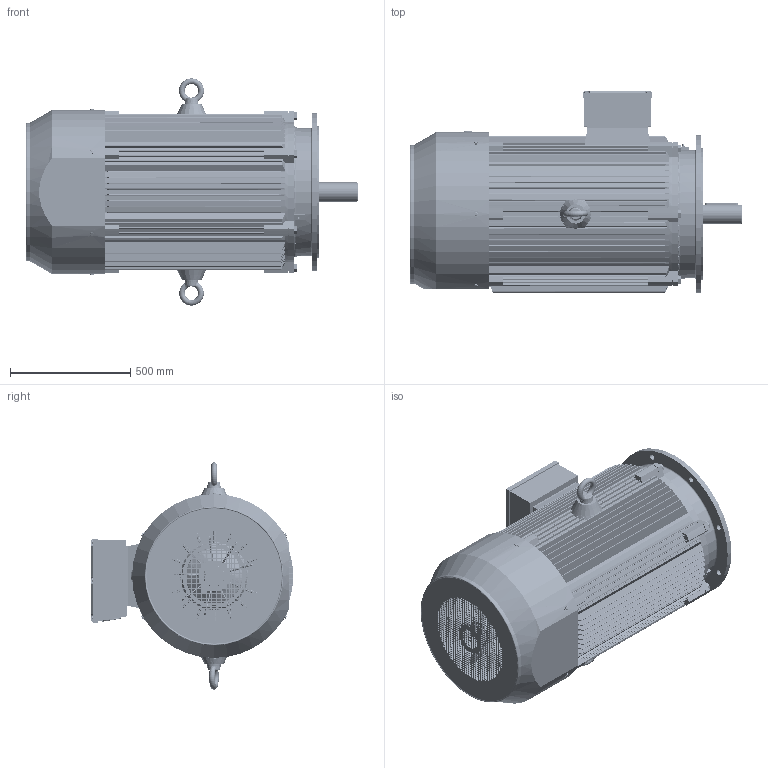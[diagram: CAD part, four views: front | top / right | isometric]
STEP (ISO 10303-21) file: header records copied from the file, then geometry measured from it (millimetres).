
FILE_DESCRIPTION (( 'STEP AP214' ), '1' );
FILE_NAME ('BCT3132.31J605.11.STEP', '2020-04-23T15:31:32', ( '' ), ( '' ), 'SwSTEP 2.0', 'SolidWorks 2019', '' );
FILE_SCHEMA (( 'AUTOMOTIVE_DESIGN' ));
Length unit declared in the file: millimetre
Products named in the file (1): BCT3132.31J605.11
Bounding box: 1381.98 x 844 x 946 mm (x, y, z)
Volume: 104116085.1 mm3; surface area: 13655543.1 mm2
Topology: 48 solids, 48 shells, 8259 faces, 23120 edges, 15168 vertices
Faces by surface type: plane 5869, cylinder 970, cone 514, torus 449, sphere 248, bspline 209
Entity records: 326317 total; most frequent: CARTESIAN_POINT 112241, ORIENTED_EDGE 46204, DIRECTION 40173, EDGE_CURVE 23102, VECTOR 16481, LINE 16481, VERTEX_POINT 15164, AXIS2_PLACEMENT_3D 11846
